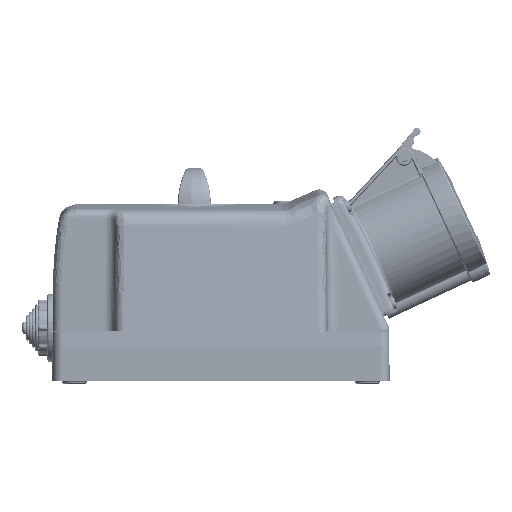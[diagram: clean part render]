
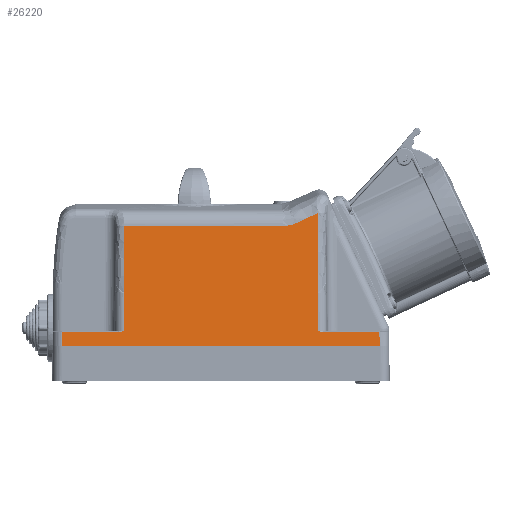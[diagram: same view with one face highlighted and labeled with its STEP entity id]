
A CAD part, left-side view. The second image highlights one B-rep face of the part: STEP entity #26220.
In plain terms, the highlighted planar face has unit normal (-0.996, 0, 0.087).
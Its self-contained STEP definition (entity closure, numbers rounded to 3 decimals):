
#1950=ELLIPSE('',#100324,140.206,11.);
#1951=ELLIPSE('',#100325,7194.516,265.);
#1952=ELLIPSE('',#100326,140.206,11.);
#10281=PLANE('',#100327);
#15365=LINE('',#215131,#20927);
#15432=LINE('',#215834,#20994);
#15433=LINE('',#215836,#20995);
#15434=LINE('',#215855,#20996);
#15435=LINE('',#215866,#20997);
#15436=LINE('',#215870,#20998);
#15437=LINE('',#215889,#20999);
#15438=LINE('',#215891,#21000);
#20927=VECTOR('',#116281,1.);
#20994=VECTOR('',#116450,1.);
#20995=VECTOR('',#116451,1.);
#20996=VECTOR('',#116452,1.);
#20997=VECTOR('',#116457,1.);
#20998=VECTOR('',#116460,1.);
#20999=VECTOR('',#116461,1.);
#21000=VECTOR('',#116462,1.);
#26220=ADVANCED_FACE('',(#31787),#10281,.T.);
#31787=FACE_OUTER_BOUND('',#37481,.T.);
#37481=EDGE_LOOP('',(#60845,#60846,#60847,#60848,#60849,#60850,#60851,#60852,
#60853,#60854,#60855,#60856,#60857,#60858));
#43063=B_SPLINE_CURVE_WITH_KNOTS('',3,(#215838,#215839,#215840,#215841,
#215842,#215843,#215844,#215845,#215846,#215847,#215848,#215849,#215850,
#215851,#215852,#215853),.UNSPECIFIED.,.F.,.F.,(4,3,3,3,3,4),(0.,0.447,
0.803,0.962,0.996,1.),.UNSPECIFIED.);
#43064=B_SPLINE_CURVE_WITH_KNOTS('',3,(#215861,#215862,#215863,#215864),
 .UNSPECIFIED.,.F.,.F.,(4,4),(0.,1.),.UNSPECIFIED.);
#43065=B_SPLINE_CURVE_WITH_KNOTS('',3,(#215872,#215873,#215874,#215875,
#215876,#215877,#215878,#215879,#215880,#215881,#215882,#215883,#215884,
#215885,#215886,#215887),.UNSPECIFIED.,.F.,.F.,(4,3,3,3,3,4),(0.,0.004,
0.038,0.197,0.553,1.),.UNSPECIFIED.);
#60845=ORIENTED_EDGE('',*,*,#87038,.T.);
#60846=ORIENTED_EDGE('',*,*,#87184,.T.);
#60847=ORIENTED_EDGE('',*,*,#87185,.T.);
#60848=ORIENTED_EDGE('',*,*,#87186,.T.);
#60849=ORIENTED_EDGE('',*,*,#87187,.T.);
#60850=ORIENTED_EDGE('',*,*,#87188,.T.);
#60851=ORIENTED_EDGE('',*,*,#87189,.T.);
#60852=ORIENTED_EDGE('',*,*,#87190,.T.);
#60853=ORIENTED_EDGE('',*,*,#87191,.T.);
#60854=ORIENTED_EDGE('',*,*,#87192,.T.);
#60855=ORIENTED_EDGE('',*,*,#87193,.T.);
#60856=ORIENTED_EDGE('',*,*,#87194,.T.);
#60857=ORIENTED_EDGE('',*,*,#87195,.T.);
#60858=ORIENTED_EDGE('',*,*,#87196,.T.);
#75836=VERTEX_POINT('',#215130);
#75837=VERTEX_POINT('',#215132);
#75967=VERTEX_POINT('',#215835);
#75968=VERTEX_POINT('',#215837);
#75969=VERTEX_POINT('',#215854);
#75970=VERTEX_POINT('',#215856);
#75971=VERTEX_POINT('',#215858);
#75972=VERTEX_POINT('',#215860);
#75973=VERTEX_POINT('',#215865);
#75974=VERTEX_POINT('',#215867);
#75975=VERTEX_POINT('',#215869);
#75976=VERTEX_POINT('',#215871);
#75977=VERTEX_POINT('',#215888);
#75978=VERTEX_POINT('',#215890);
#87038=EDGE_CURVE('',#75837,#75836,#15365,.T.);
#87184=EDGE_CURVE('',#75836,#75967,#15432,.T.);
#87185=EDGE_CURVE('',#75967,#75968,#15433,.T.);
#87186=EDGE_CURVE('',#75968,#75969,#43063,.T.);
#87187=EDGE_CURVE('',#75969,#75970,#15434,.T.);
#87188=EDGE_CURVE('',#75970,#75971,#1950,.T.);
#87189=EDGE_CURVE('',#75971,#75972,#1951,.T.);
#87190=EDGE_CURVE('',#75972,#75973,#43064,.T.);
#87191=EDGE_CURVE('',#75973,#75974,#15435,.T.);
#87192=EDGE_CURVE('',#75974,#75975,#1952,.T.);
#87193=EDGE_CURVE('',#75975,#75976,#15436,.T.);
#87194=EDGE_CURVE('',#75976,#75977,#43065,.T.);
#87195=EDGE_CURVE('',#75977,#75978,#15437,.T.);
#87196=EDGE_CURVE('',#75978,#75837,#15438,.T.);
#100324=AXIS2_PLACEMENT_3D('',#215857,#116453,#116454);
#100325=AXIS2_PLACEMENT_3D('',#215859,#116455,#116456);
#100326=AXIS2_PLACEMENT_3D('',#215868,#116458,#116459);
#100327=AXIS2_PLACEMENT_3D('',#215892,#116463,#116464);
#116281=DIRECTION('',(0.,-1.,0.));
#116450=DIRECTION('',(0.087,0.009,0.996));
#116451=DIRECTION('',(0.,1.,0.));
#116452=DIRECTION('',(0.087,0.009,0.996));
#116453=DIRECTION('',(0.996,0.,-0.087));
#116454=DIRECTION('',(-0.087,-0.009,-0.996));
#116455=DIRECTION('',(-0.996,0.,0.087));
#116456=DIRECTION('',(-0.037,0.907,-0.42));
#116457=DIRECTION('',(0.,1.,0.));
#116458=DIRECTION('',(0.996,0.,-0.087));
#116459=DIRECTION('',(-0.087,0.009,-0.996));
#116460=DIRECTION('',(-0.087,0.009,-0.996));
#116461=DIRECTION('',(0.,1.,0.));
#116462=DIRECTION('',(-0.087,0.009,-0.996));
#116463=DIRECTION('',(-0.996,0.,0.087));
#116464=DIRECTION('',(0.087,0.,0.996));
#215130=CARTESIAN_POINT('',(-58.825,-79.329,20.));
#215131=CARTESIAN_POINT('',(-58.825,104.825,20.));
#215132=CARTESIAN_POINT('',(-58.825,99.329,20.));
#215834=CARTESIAN_POINT('',(-58.13,-79.26,27.952));
#215835=CARTESIAN_POINT('',(-58.165,-79.264,27.544));
#215836=CARTESIAN_POINT('',(-58.165,10.,27.544));
#215837=CARTESIAN_POINT('',(-58.165,-47.764,27.544));
#215838=CARTESIAN_POINT('',(-58.165,-47.764,27.544));
#215839=CARTESIAN_POINT('',(-58.165,-47.291,27.544));
#215840=CARTESIAN_POINT('',(-58.157,-46.817,27.644));
#215841=CARTESIAN_POINT('',(-58.144,-46.366,27.785));
#215842=CARTESIAN_POINT('',(-58.134,-46.003,27.899));
#215843=CARTESIAN_POINT('',(-58.122,-45.65,28.041));
#215844=CARTESIAN_POINT('',(-58.109,-45.303,28.194));
#215845=CARTESIAN_POINT('',(-58.103,-45.148,28.262));
#215846=CARTESIAN_POINT('',(-58.096,-44.994,28.333));
#215847=CARTESIAN_POINT('',(-58.09,-44.841,28.404));
#215848=CARTESIAN_POINT('',(-58.089,-44.808,28.42));
#215849=CARTESIAN_POINT('',(-58.087,-44.775,28.435));
#215850=CARTESIAN_POINT('',(-58.086,-44.742,28.451));
#215851=CARTESIAN_POINT('',(-58.086,-44.738,28.453));
#215852=CARTESIAN_POINT('',(-58.086,-44.734,28.455));
#215853=CARTESIAN_POINT('',(-58.086,-44.73,28.456));
#215854=CARTESIAN_POINT('',(-58.086,-44.73,28.456));
#215855=CARTESIAN_POINT('',(-58.784,-44.799,20.475));
#215856=CARTESIAN_POINT('',(-56.225,-44.544,49.726));
#215857=CARTESIAN_POINT('',(-56.226,-55.545,49.715));
#215858=CARTESIAN_POINT('',(-52.282,-44.739,94.788));
#215859=CARTESIAN_POINT('',(-9.962,-1701.085,578.512));
#215860=CARTESIAN_POINT('',(-52.768,-33.03,89.241));
#215861=CARTESIAN_POINT('',(-52.768,-33.03,89.241));
#215862=CARTESIAN_POINT('',(-52.876,-30.417,88.003));
#215863=CARTESIAN_POINT('',(-52.932,-27.588,87.365));
#215864=CARTESIAN_POINT('',(-52.932,-24.695,87.365));
#215865=CARTESIAN_POINT('',(-52.932,-24.695,87.365));
#215866=CARTESIAN_POINT('',(-52.932,69.146,87.365));
#215867=CARTESIAN_POINT('',(-52.932,64.623,87.365));
#215868=CARTESIAN_POINT('',(-56.226,75.545,49.715));
#215869=CARTESIAN_POINT('',(-56.225,64.544,49.726));
#215870=CARTESIAN_POINT('',(-58.129,64.734,27.957));
#215871=CARTESIAN_POINT('',(-58.086,64.73,28.456));
#215872=CARTESIAN_POINT('',(-58.086,64.73,28.456));
#215873=CARTESIAN_POINT('',(-58.086,64.734,28.455));
#215874=CARTESIAN_POINT('',(-58.086,64.738,28.453));
#215875=CARTESIAN_POINT('',(-58.086,64.742,28.451));
#215876=CARTESIAN_POINT('',(-58.087,64.775,28.435));
#215877=CARTESIAN_POINT('',(-58.089,64.808,28.42));
#215878=CARTESIAN_POINT('',(-58.09,64.841,28.404));
#215879=CARTESIAN_POINT('',(-58.096,64.994,28.333));
#215880=CARTESIAN_POINT('',(-58.103,65.148,28.262));
#215881=CARTESIAN_POINT('',(-58.109,65.303,28.194));
#215882=CARTESIAN_POINT('',(-58.122,65.65,28.041));
#215883=CARTESIAN_POINT('',(-58.134,66.003,27.899));
#215884=CARTESIAN_POINT('',(-58.144,66.366,27.785));
#215885=CARTESIAN_POINT('',(-58.157,66.817,27.644));
#215886=CARTESIAN_POINT('',(-58.165,67.291,27.544));
#215887=CARTESIAN_POINT('',(-58.165,67.764,27.544));
#215888=CARTESIAN_POINT('',(-58.165,67.764,27.544));
#215889=CARTESIAN_POINT('',(-58.165,99.26,27.544));
#215890=CARTESIAN_POINT('',(-58.165,99.264,27.544));
#215891=CARTESIAN_POINT('',(-58.83,99.33,19.952));
#215892=CARTESIAN_POINT('',(-58.825,10.,20.));
